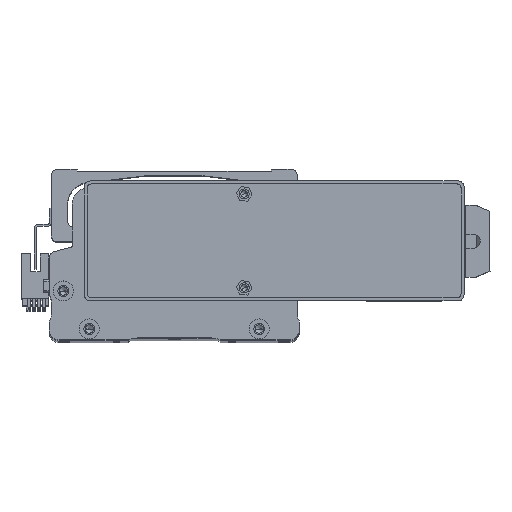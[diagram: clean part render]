
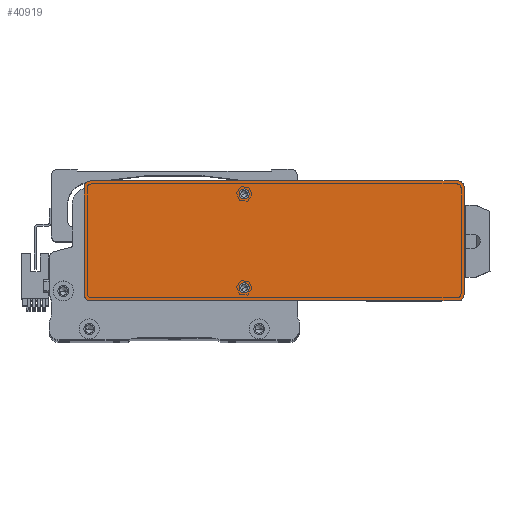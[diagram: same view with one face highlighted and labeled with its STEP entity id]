
A CAD part, top view. The second image highlights one B-rep face of the part: STEP entity #40919.
In plain terms, the highlighted planar face has unit normal (0, 0, 1) as drawn and (0, 0, -1) by its records, which use the part's own axes.
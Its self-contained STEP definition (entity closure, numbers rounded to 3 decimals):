
#215 = ORIENTED_EDGE ( 'NONE', *, *, #12527, .F. ) ;
#542 = VERTEX_POINT ( 'NONE', #16511 ) ;
#889 = CARTESIAN_POINT ( 'NONE',  ( -95., -30., 0. ) ) ;
#1250 = CARTESIAN_POINT ( 'NONE',  ( 0., 0., 0. ) ) ;
#1863 = DIRECTION ( 'NONE',  ( 1., 0., 0. ) ) ;
#1914 = EDGE_CURVE ( 'NONE', #18485, #45777, #8995, .T. ) ;
#3364 = DIRECTION ( 'NONE',  ( 0., 0., -1. ) ) ;
#3787 = CARTESIAN_POINT ( 'NONE',  ( 95., 27., 0. ) ) ;
#4223 = VERTEX_POINT ( 'NONE', #70389 ) ;
#4521 = ORIENTED_EDGE ( 'NONE', *, *, #9606, .F. ) ;
#4548 = CARTESIAN_POINT ( 'NONE',  ( 95., -27., 0. ) ) ;
#5094 = FACE_BOUND ( 'NONE', #17649, .T. ) ;
#6442 = CIRCLE ( 'NONE', #56094, 2.5 ) ;
#6513 = DIRECTION ( 'NONE',  ( 1., 0., 0. ) ) ;
#6983 = DIRECTION ( 'NONE',  ( 0., -1., 0. ) ) ;
#7714 = EDGE_CURVE ( 'NONE', #28572, #22088, #6442, .T. ) ;
#7836 = DIRECTION ( 'NONE',  ( 0., 1., 0. ) ) ;
#7850 = EDGE_CURVE ( 'NONE', #27770, #16132, #34013, .T. ) ;
#8424 = CIRCLE ( 'NONE', #27893, 3. ) ;
#8995 = CIRCLE ( 'NONE', #56709, 3. ) ;
#9606 = EDGE_CURVE ( 'NONE', #33122, #16132, #42148, .T. ) ;
#9826 = CARTESIAN_POINT ( 'NONE',  ( -17.5, -23.5, 0. ) ) ;
#10184 = EDGE_CURVE ( 'NONE', #27770, #45777, #67723, .T. ) ;
#11014 = EDGE_CURVE ( 'NONE', #542, #4223, #34423, .T. ) ;
#12325 = EDGE_CURVE ( 'NONE', #33122, #25968, #8424, .T. ) ;
#12506 = CARTESIAN_POINT ( 'NONE',  ( -15., -23.5, 0. ) ) ;
#12527 = EDGE_CURVE ( 'NONE', #4223, #542, #66391, .T. ) ;
#13480 = DIRECTION ( 'NONE',  ( 1., 0., 0. ) ) ;
#15222 = EDGE_CURVE ( 'NONE', #38683, #25968, #60253, .T. ) ;
#16132 = VERTEX_POINT ( 'NONE', #17264 ) ;
#16391 = CIRCLE ( 'NONE', #71344, 3. ) ;
#16511 = CARTESIAN_POINT ( 'NONE',  ( -12.5, 23.5, 0. ) ) ;
#16612 = VECTOR ( 'NONE', #43363, 1000. ) ;
#16823 = VERTEX_POINT ( 'NONE', #18722 ) ;
#17264 = CARTESIAN_POINT ( 'NONE',  ( 92., -30., 0. ) ) ;
#17546 = ORIENTED_EDGE ( 'NONE', *, *, #73972, .F. ) ;
#17649 = EDGE_LOOP ( 'NONE', ( #61078, #41531 ) ) ;
#18485 = VERTEX_POINT ( 'NONE', #72200 ) ;
#18621 = DIRECTION ( 'NONE',  ( -1., 0., 0. ) ) ;
#18722 = CARTESIAN_POINT ( 'NONE',  ( -92., 30., 0. ) ) ;
#20396 = LINE ( 'NONE', #31155, #16612 ) ;
#20674 = ORIENTED_EDGE ( 'NONE', *, *, #10184, .F. ) ;
#20978 = EDGE_CURVE ( 'NONE', #38683, #16823, #16391, .T. ) ;
#21075 = CARTESIAN_POINT ( 'NONE',  ( -95., 27., 0. ) ) ;
#21294 = FACE_BOUND ( 'NONE', #21688, .T. ) ;
#21688 = EDGE_LOOP ( 'NONE', ( #215, #57238 ) ) ;
#22088 = VERTEX_POINT ( 'NONE', #26580 ) ;
#22224 = ORIENTED_EDGE ( 'NONE', *, *, #20978, .T. ) ;
#24397 = CARTESIAN_POINT ( 'NONE',  ( 92., 27., 0. ) ) ;
#24798 = DIRECTION ( 'NONE',  ( 0., 0., -1. ) ) ;
#24977 = DIRECTION ( 'NONE',  ( 0., 0., -1. ) ) ;
#25968 = VERTEX_POINT ( 'NONE', #77390 ) ;
#26580 = CARTESIAN_POINT ( 'NONE',  ( -12.5, -23.5, 0. ) ) ;
#27770 = VERTEX_POINT ( 'NONE', #4548 ) ;
#27893 = AXIS2_PLACEMENT_3D ( 'NONE', #69247, #32809, #75347 ) ;
#28572 = VERTEX_POINT ( 'NONE', #9826 ) ;
#30521 = DIRECTION ( 'NONE',  ( 1., 0., 0. ) ) ;
#30709 = CARTESIAN_POINT ( 'NONE',  ( 95., -30., 0. ) ) ;
#31155 = CARTESIAN_POINT ( 'NONE',  ( 95., 30., 0. ) ) ;
#31561 = CARTESIAN_POINT ( 'NONE',  ( -92., 27., 0. ) ) ;
#32809 = DIRECTION ( 'NONE',  ( 0., 0., -1. ) ) ;
#33122 = VERTEX_POINT ( 'NONE', #50586 ) ;
#34013 = CIRCLE ( 'NONE', #38235, 3. ) ;
#34423 = CIRCLE ( 'NONE', #58891, 2.5 ) ;
#36491 = AXIS2_PLACEMENT_3D ( 'NONE', #1250, #49888, #13480 ) ;
#37650 = PLANE ( 'NONE',  #36491 ) ;
#37652 = DIRECTION ( 'NONE',  ( 1., 0., 0. ) ) ;
#38235 = AXIS2_PLACEMENT_3D ( 'NONE', #74701, #38273, #1863 ) ;
#38273 = DIRECTION ( 'NONE',  ( 0., 0., -1. ) ) ;
#38562 = AXIS2_PLACEMENT_3D ( 'NONE', #61228, #24798, #67315 ) ;
#38683 = VERTEX_POINT ( 'NONE', #21075 ) ;
#39814 = CARTESIAN_POINT ( 'NONE',  ( -15., -23.5, 0. ) ) ;
#40243 = ORIENTED_EDGE ( 'NONE', *, *, #7850, .T. ) ;
#40285 = VECTOR ( 'NONE', #6513, 1000. ) ;
#40919 = ADVANCED_FACE ( 'NONE', ( #21294, #69832, #5094 ), #37650, .F. ) ;
#41531 = ORIENTED_EDGE ( 'NONE', *, *, #58518, .F. ) ;
#41734 = CIRCLE ( 'NONE', #69447, 2.5 ) ;
#42148 = LINE ( 'NONE', #30709, #40285 ) ;
#43363 = DIRECTION ( 'NONE',  ( -1., 0., 0. ) ) ;
#45777 = VERTEX_POINT ( 'NONE', #3787 ) ;
#45928 = DIRECTION ( 'NONE',  ( -1., 0., 0. ) ) ;
#49888 = DIRECTION ( 'NONE',  ( 0., 0., 1. ) ) ;
#50586 = CARTESIAN_POINT ( 'NONE',  ( -92., -30., 0. ) ) ;
#51614 = VECTOR ( 'NONE', #7836, 1000. ) ;
#54853 = EDGE_LOOP ( 'NONE', ( #20674, #40243, #4521, #76919, #63657, #22224, #17546, #59240 ) ) ;
#55061 = DIRECTION ( 'NONE',  ( 0., 0., -1. ) ) ;
#56094 = AXIS2_PLACEMENT_3D ( 'NONE', #12506, #55061, #18621 ) ;
#56709 = AXIS2_PLACEMENT_3D ( 'NONE', #24397, #66925, #30521 ) ;
#57238 = ORIENTED_EDGE ( 'NONE', *, *, #11014, .F. ) ;
#58518 = EDGE_CURVE ( 'NONE', #22088, #28572, #41734, .T. ) ;
#58891 = AXIS2_PLACEMENT_3D ( 'NONE', #61421, #24977, #67518 ) ;
#59240 = ORIENTED_EDGE ( 'NONE', *, *, #1914, .T. ) ;
#60253 = LINE ( 'NONE', #889, #76043 ) ;
#61078 = ORIENTED_EDGE ( 'NONE', *, *, #7714, .F. ) ;
#61228 = CARTESIAN_POINT ( 'NONE',  ( -15., 23.5, 0. ) ) ;
#61421 = CARTESIAN_POINT ( 'NONE',  ( -15., 23.5, 0. ) ) ;
#63657 = ORIENTED_EDGE ( 'NONE', *, *, #15222, .F. ) ;
#63733 = CARTESIAN_POINT ( 'NONE',  ( 95., -30., 0. ) ) ;
#66391 = CIRCLE ( 'NONE', #38562, 2.5 ) ;
#66925 = DIRECTION ( 'NONE',  ( 0., 0., -1. ) ) ;
#67315 = DIRECTION ( 'NONE',  ( -1., 0., 0. ) ) ;
#67518 = DIRECTION ( 'NONE',  ( -1., 0., 0. ) ) ;
#67723 = LINE ( 'NONE', #63733, #51614 ) ;
#69247 = CARTESIAN_POINT ( 'NONE',  ( -92., -27., 0. ) ) ;
#69447 = AXIS2_PLACEMENT_3D ( 'NONE', #39814, #3364, #45928 ) ;
#69832 = FACE_OUTER_BOUND ( 'NONE', #54853, .T. ) ;
#70389 = CARTESIAN_POINT ( 'NONE',  ( -17.5, 23.5, 0. ) ) ;
#71344 = AXIS2_PLACEMENT_3D ( 'NONE', #31561, #74106, #37652 ) ;
#72200 = CARTESIAN_POINT ( 'NONE',  ( 92., 30., 0. ) ) ;
#73972 = EDGE_CURVE ( 'NONE', #18485, #16823, #20396, .T. ) ;
#74106 = DIRECTION ( 'NONE',  ( 0., 0., -1. ) ) ;
#74701 = CARTESIAN_POINT ( 'NONE',  ( 92., -27., 0. ) ) ;
#75347 = DIRECTION ( 'NONE',  ( 1., 0., 0. ) ) ;
#76043 = VECTOR ( 'NONE', #6983, 1000. ) ;
#76919 = ORIENTED_EDGE ( 'NONE', *, *, #12325, .T. ) ;
#77390 = CARTESIAN_POINT ( 'NONE',  ( -95., -27., 0. ) ) ;
